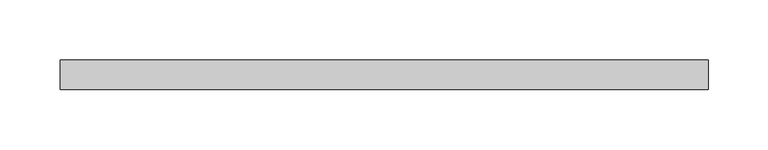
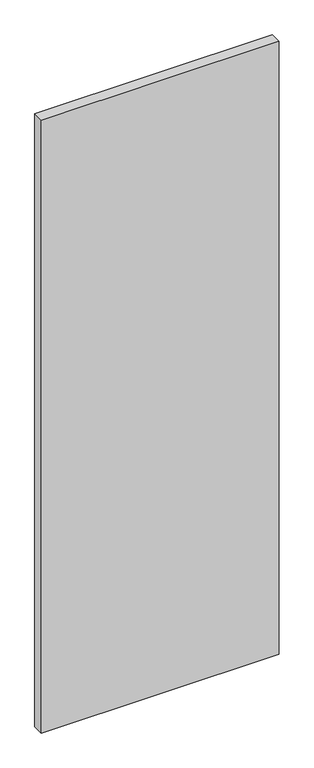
"""IFC4 building model written with IfcOpenShell, lengths in millimetres: plate geometry, 系统嵌板 : 玻璃."""

from ifc_helpers import new_model, si_unit, origin, origin_with_axes, place, context, project, spatial, polyline, outline, extrude, source, transform, mapped, element, save


def plate_be0c214f(model_context):
    return source(origin(), model_context, "Body", "SweptSolid", [
        extrude(outline(polyline([(270.0, -12.5), (-270.0, -12.5), (-270.0, 12.5), (270.0, 12.5), (270.0, -12.5)])), origin_with_axes(), (0.0, 0.0, 1.0), 1470.0),
    ])


if __name__ == "__main__":
    model = new_model("IFC4")
    model_context = context("Model", 3, world=origin())
    ifc_project = project(units=[si_unit("LENGTHUNIT", "METRE", prefix="MILLI")], contexts=[model_context])
    site = spatial("IfcSite", under=ifc_project)
    building = spatial("IfcBuilding", under=site)
    placement = place(None, origin())
    plate_shape = plate_be0c214f(model_context)
    element("IfcPlate", 1, ObjectType="系统嵌板 : 玻璃", at=placement, inside=building, context=model_context, shape_type="MappedRepresentation", body=[
        mapped(plate_shape, transform((0.0, 0.0, 0.0), x_axis=(1.0, 0.0, 0.0), y_axis=(0.0, 1.0, 0.0), z_axis=(0.0, 0.0, 1.0))),
    ])
    save(model, "model.ifc")
